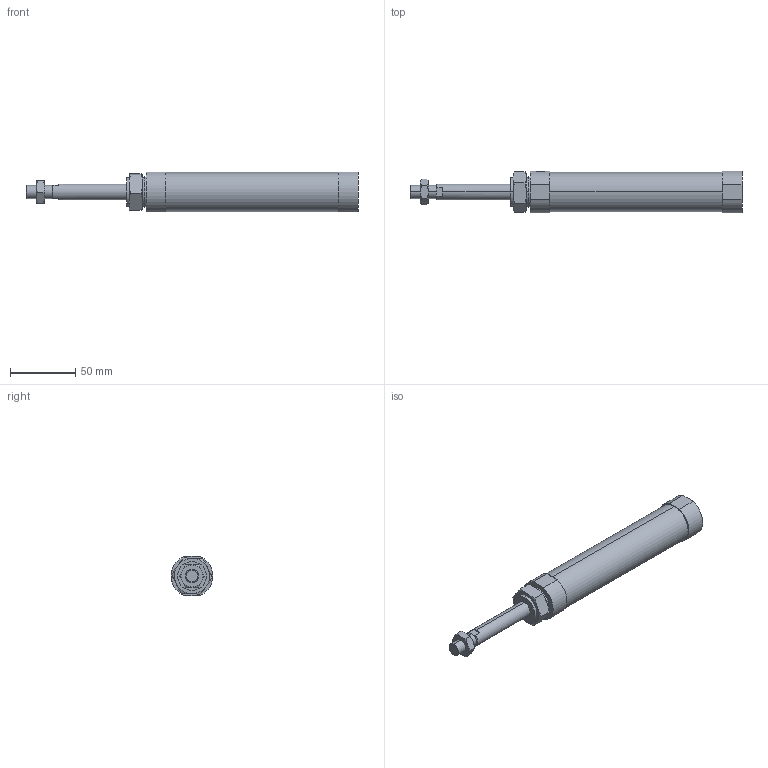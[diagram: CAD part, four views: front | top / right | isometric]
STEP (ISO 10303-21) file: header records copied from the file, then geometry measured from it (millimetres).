
FILE_DESCRIPTION (( 'STEP AP203' ), '1' );
FILE_NAME ('JGND0-25-50-N.STEP', '2016-08-04T02:11:39', ( '' ), ( '' ), 'SwSTEP 2.0', 'SolidWorks 2014', '' );
FILE_SCHEMA (( 'CONFIG_CONTROL_DESIGN' ));
Length unit declared in the file: millimetre
Products named in the file (4): JGND0-25-50-N; J#0-25-50(P)
Assembly tree (3 placements, depth 2):
  JGND0-25-50-N
    J#0-25-50(P)
    (unnamed)
    (unnamed)
Bounding box: 254 x 32 x 30 mm (x, y, z)
Volume: 133608 mm3; surface area: 24619.8 mm2
Topology: 3 solids, 3 shells, 85 faces, 188 edges, 111 vertices
Faces by surface type: plane 35, torus 24, cylinder 20, cone 6
Entity records: 2986 total; most frequent: CARTESIAN_POINT 762, DIRECTION 384, ORIENTED_EDGE 372, EDGE_CURVE 186, AXIS2_PLACEMENT_3D 161, VERTEX_POINT 111, EDGE_LOOP 93, ADVANCED_FACE 85
